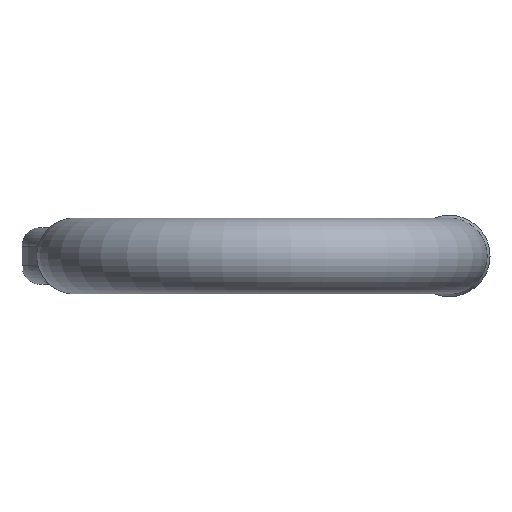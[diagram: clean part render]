
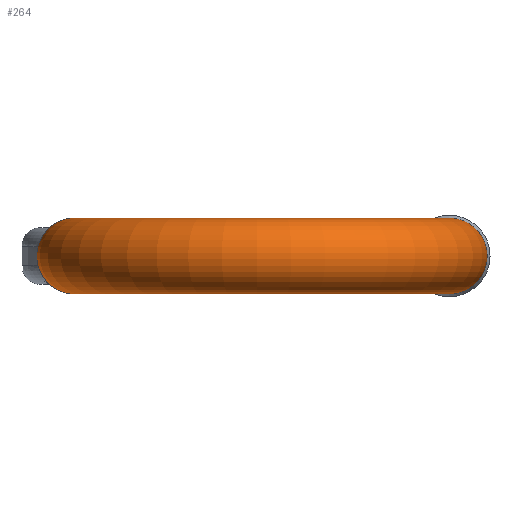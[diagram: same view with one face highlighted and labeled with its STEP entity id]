
A CAD part, front view. The second image highlights one B-rep face of the part: STEP entity #264.
In plain terms, the highlighted toroidal (fillet/blend) face has major radius 69 mm and minor radius 14 mm.
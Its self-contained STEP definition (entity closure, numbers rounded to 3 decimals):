
#230=TOROIDAL_SURFACE('',#2883,69.,14.);
#264=ADVANCED_FACE('',(#534,#535),#230,.T.);
#497=CIRCLE('',#2865,14.);
#499=CIRCLE('',#2877,14.);
#534=FACE_BOUND('',#567,.T.);
#535=FACE_BOUND('',#568,.T.);
#567=EDGE_LOOP('',(#1312));
#568=EDGE_LOOP('',(#1313));
#1312=ORIENTED_EDGE('',*,*,#2346,.T.);
#1313=ORIENTED_EDGE('',*,*,#2380,.F.);
#2074=VERTEX_POINT('',#3944);
#2104=VERTEX_POINT('',#4190);
#2346=EDGE_CURVE('',#2074,#2074,#497,.T.);
#2380=EDGE_CURVE('',#2104,#2104,#499,.T.);
#2865=AXIS2_PLACEMENT_3D('',#3943,#3074,#3075);
#2877=AXIS2_PLACEMENT_3D('',#4189,#3102,#3103);
#2883=AXIS2_PLACEMENT_3D('',#4199,#3114,#3115);
#3074=DIRECTION('',(0.,-1.,0.));
#3075=DIRECTION('',(1.,0.,0.));
#3102=DIRECTION('',(0.,1.,0.));
#3103=DIRECTION('',(-1.,0.,0.));
#3114=DIRECTION('',(0.,0.,1.));
#3115=DIRECTION('',(1.,0.,0.));
#3943=CARTESIAN_POINT('',(-69.,-45.,0.));
#3944=CARTESIAN_POINT('',(-55.,-45.,0.));
#4189=CARTESIAN_POINT('',(69.,-45.,0.));
#4190=CARTESIAN_POINT('',(55.,-45.,0.));
#4199=CARTESIAN_POINT('',(0.,-45.,0.));
